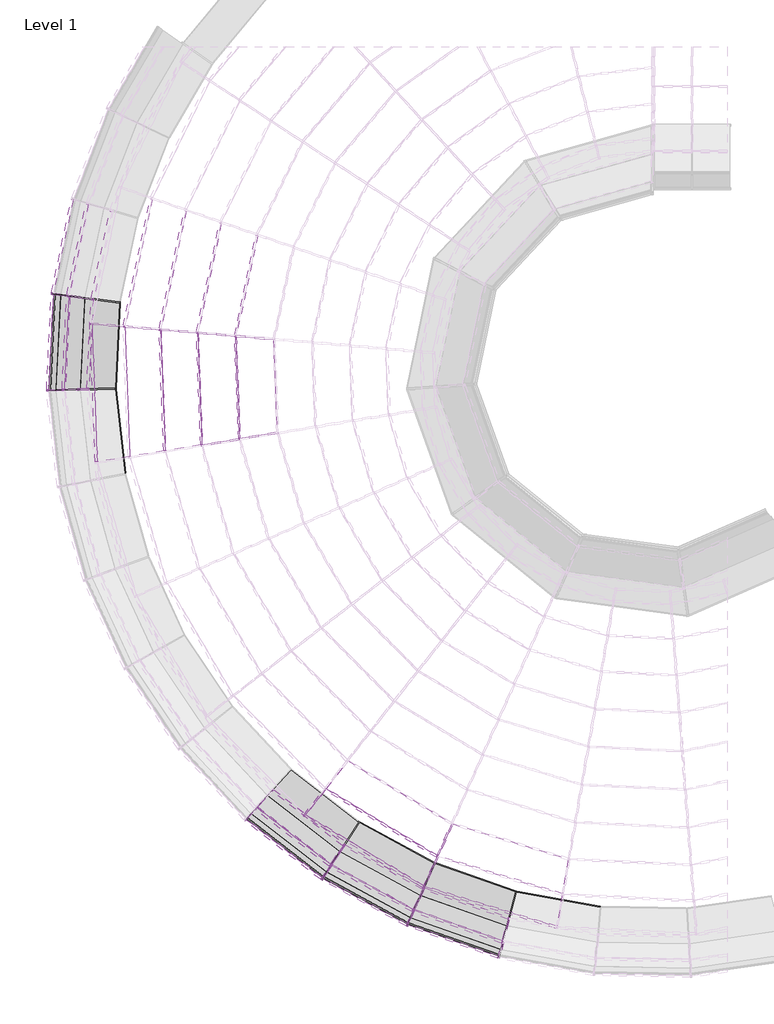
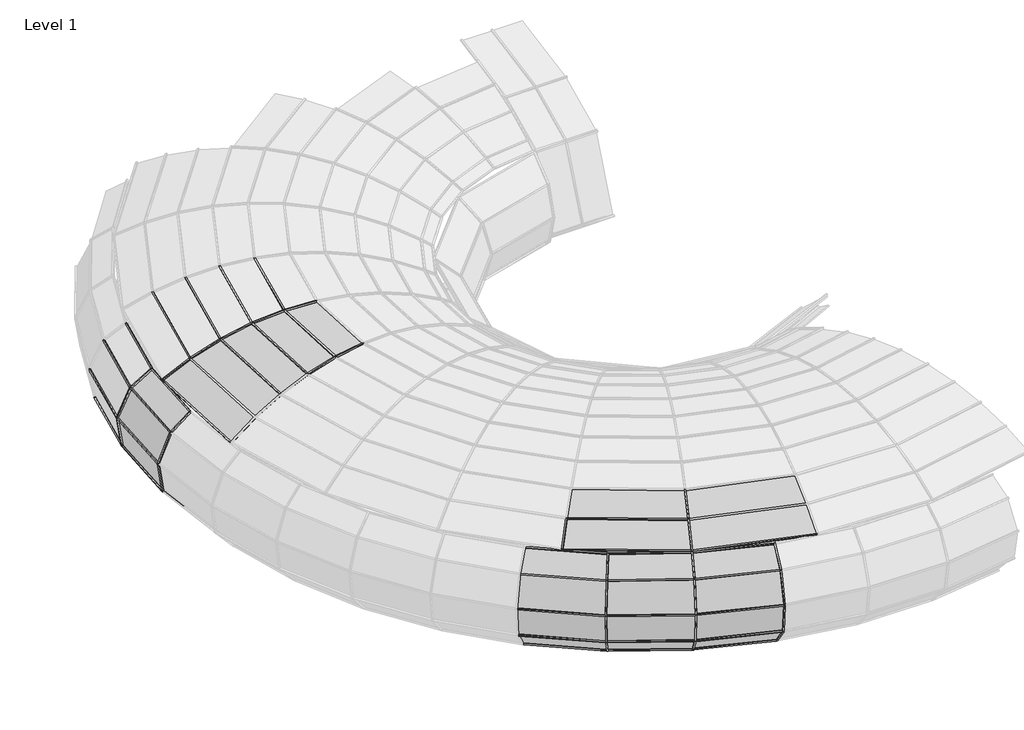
# One storey, part 2 of 23: 76 members, 29 plates.
"""IFC4 building model written with IfcOpenShell, lengths in millimetres."""

from ifc_helpers import new_model, si_unit, origin, place, context, project, spatial, transform, mapped, element, save
from components import member_6c4aaba8, member_0ea93e7c, member_01d9c279, member_12c77cbe, member_af15374c, member_9c203333, member_86c07ba8, member_0e8a41c0, member_f532ae18, member_ff5bcfe9, member_5080b2ef, member_d6b8231b, member_8c9da58c, member_391bee44, member_01ebdf2a, member_0cd36c09, member_e4cc2466, system_panel_glazed_dfe8d515, system_panel_glazed_f0cf6c0b, system_panel_glazed_2b57bb89, system_panel_glazed_39caee5c, system_panel_glazed_2fe36e08, system_panel_glazed_8ac96967, system_panel_glazed_5e26bc8e, system_panel_glazed_f7be4813, system_panel_glazed_5b1ce257, system_panel_glazed_7bf4cd1b

model = new_model("IFC4")

# Units and contexts
model_context = context("Model", 3, world=origin())
ifc_project = project(units=[si_unit("LENGTHUNIT", "METRE", prefix="MILLI")], contexts=[model_context])

# Site, building, storey
site = spatial("IfcSite", under=ifc_project)
building = spatial("IfcBuilding", under=site)
storey = spatial("IfcBuildingStorey", under=building, Name="Level 1", Elevation=0.0)

# Members
placement = place(None, origin())
member_shape = member_6c4aaba8(model_context)
element("IfcMember", 1, ObjectType="Rectangular Mullion : 1\" Square", at=placement, inside=storey, context=model_context, shape_type="MappedRepresentation", body=[
    mapped(member_shape, transform((-18234.6374664, -620.2137756, 2378.3537392), x_axis=(0.8858068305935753, -0.18815306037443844, 0.42419887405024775), y_axis=(-0.41494158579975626, 0.08813719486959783, 0.9055690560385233), z_axis=(-0.20777328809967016, -0.9781770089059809, 0.0))),
])
element("IfcMember", 2, ObjectType="Rectangular Mullion : 1\" Square", at=placement, inside=storey, context=model_context, shape_type="MappedRepresentation", body=[
    mapped(member_shape, transform((-13319.8966208, -8973.2732084, 2378.3537392), x_axis=(0.4674240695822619, 0.7756094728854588, 0.42419887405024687), y_axis=(-0.21895708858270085, -0.363321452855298, 0.9055690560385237), z_axis=(0.8564884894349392, -0.516166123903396, 0.0))),
])
member_2_shape = member_0ea93e7c(model_context)
element("IfcMember", 3, ObjectType="Rectangular Mullion : 1\" Square", at=placement, inside=storey, context=model_context, shape_type="MappedRepresentation", body=[
    mapped(member_2_shape, transform((-17084.3361766, -718.8343784, 2763.3769688), x_axis=(0.9585255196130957, -0.20359914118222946, 0.19943976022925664), y_axis=(-0.19508738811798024, 0.041438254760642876, 0.9799100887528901), z_axis=(-0.2077732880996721, -0.9781770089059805, 0.0))),
])
element("IfcMember", 4, ObjectType="Rectangular Mullion : 1\" Square", at=placement, inside=storey, context=model_context, shape_type="MappedRepresentation", body=[
    mapped(member_2_shape, transform((-17019.4789616, -2495.128698, 2763.3769688), x_axis=(0.979193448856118, 0.03746961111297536, 0.19943976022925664), y_axis=(-0.1992939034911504, -0.007626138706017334, 0.97991008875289), z_axis=(0.038237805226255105, -0.9992686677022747, 0.0))),
])
member_3_shape = member_01d9c279(model_context)
element("IfcMember", 5, ObjectType="Rectangular Mullion : 1\" Square", at=placement, inside=storey, context=model_context, shape_type="MappedRepresentation", body=[
    mapped(member_3_shape, transform((-16483.1530505, -770.3765638, 2850.17796), x_axis=(0.9748671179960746, -0.20707023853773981, 0.08219500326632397), y_axis=(-0.0804012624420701, 0.01707792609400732, 0.9966162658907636), z_axis=(-0.20777328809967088, -0.9781770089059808, 0.0))),
])
element("IfcMember", 6, ObjectType="Rectangular Mullion : 1\" Square", at=placement, inside=storey, context=model_context, shape_type="MappedRepresentation", body=[
    mapped(member_3_shape, transform((-16423.9926884, -2397.7950125, 2850.17796), x_axis=(0.9958874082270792, 0.038108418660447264, 0.08219500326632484), y_axis=(-0.08213489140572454, -0.003142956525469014, 0.9966162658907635), z_axis=(0.038237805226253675, -0.9992686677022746, 0.0))),
])
member_4_shape = member_12c77cbe(model_context)
element("IfcMember", 7, ObjectType="Rectangular Mullion : 1\" Square", at=placement, inside=storey, context=model_context, shape_type="MappedRepresentation", body=[
    mapped(member_4_shape, transform((-17600.5301102, -2590.1029272, 2605.3528615), x_axis=(0.9487397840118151, 0.036304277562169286, 0.3139662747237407), y_axis=(-0.3137366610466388, -0.012005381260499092, 0.9494341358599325), z_axis=(0.03823780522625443, -0.9992686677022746, 0.0))),
])
element("IfcMember", 8, ObjectType="Rectangular Mullion : 1\" Square", at=placement, inside=storey, context=model_context, shape_type="MappedRepresentation", body=[
    mapped(member_4_shape, transform((-17670.9460812, -668.5416221, 2605.3528615), x_axis=(0.9287146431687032, -0.19726705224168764, 0.3139662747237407), y_axis=(-0.3071145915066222, 0.06523380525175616, 0.9494341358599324), z_axis=(-0.20777328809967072, -0.9781770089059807, 0.0))),
])
member_5_shape = member_af15374c(model_context)
element("IfcMember", 9, ObjectType="Rectangular Mullion : 1\" Square", at=placement, inside=storey, context=model_context, shape_type="MappedRepresentation", body=[
    mapped(member_5_shape, transform((-18769.5441808, -599.6519261, 2085.6089632), x_axis=(-0.874944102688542, -0.03348042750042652, -0.48306508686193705), y_axis=(-0.4827118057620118, -0.018471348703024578, 0.8755844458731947), z_axis=(-0.038237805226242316, 0.9992686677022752, 0.0))),
])
element("IfcMember", 10, ObjectType="Rectangular Mullion : 1\" Square", at=placement, inside=storey, context=model_context, shape_type="MappedRepresentation", body=[
    mapped(member_5_shape, transform((-15395.4434712, -8341.9634909, 2085.6089632), x_axis=(-0.4519470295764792, -0.7499279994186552, -0.4830650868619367), y_axis=(-0.24934183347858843, -0.4137396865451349, 0.8755844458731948), z_axis=(-0.8564884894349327, 0.5161661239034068, 0.0))),
])
element("IfcMember", 11, ObjectType="Rectangular Mullion : 1\" Square", at=placement, inside=storey, context=model_context, shape_type="MappedRepresentation", body=[
    mapped(member_5_shape, transform((-13514.2142778, -9472.0603684, 2085.6089632), x_axis=(-0.2544193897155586, -0.8378060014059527, -0.4830650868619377), y_axis=(-0.1403646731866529, -0.4622224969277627, 0.8755844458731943), z_axis=(-0.9568534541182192, 0.2905709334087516, 0.0))),
])
member_6_shape = member_9c203333(model_context)
element("IfcMember", 12, ObjectType="Rectangular Mullion : 1\" Square", at=placement, inside=storey, context=model_context, shape_type="MappedRepresentation", body=[
    mapped(member_6_shape, transform((-18301.5304624, -271.2213628, 0.0), x_axis=(0.9585248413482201, -0.0468730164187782, -0.28112817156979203), y_axis=(-0.28079263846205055, 0.013731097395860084, -0.9596702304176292), z_axis=(0.04884283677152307, 0.9988064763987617, 0.0))),
])
element("IfcMember", 13, ObjectType="Rectangular Mullion : 1\" Square", at=placement, inside=storey, context=model_context, shape_type="MappedRepresentation", body=[
    mapped(member_6_shape, transform((-18365.6119929, -1623.1277154, 0.0), x_axis=(0.9537279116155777, 0.10663030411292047, -0.281128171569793), y_axis=(-0.27938741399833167, -0.031236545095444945, -0.959670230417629), z_axis=(-0.11111140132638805, 0.9938079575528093, 0.0))),
])
element("IfcMember", 14, ObjectType="Rectangular Mullion : 1\" Square", at=placement, inside=storey, context=model_context, shape_type="MappedRepresentation", body=[
    mapped(member_6_shape, transform((-14525.3059451, -8435.0631965, 0.0), x_axis=(0.45860198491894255, 0.8430012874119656, -0.28112817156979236), y_axis=(-0.13434400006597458, -0.24695088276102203, -0.9596702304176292), z_axis=(-0.8784280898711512, 0.4778745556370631, 0.0))),
])
element("IfcMember", 15, ObjectType="Rectangular Mullion : 1\" Square", at=placement, inside=storey, context=model_context, shape_type="MappedRepresentation", body=[
    mapped(member_6_shape, transform((-13335.4532661, -9080.0498871, 0.0), x_axis=(0.31825462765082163, 0.9053623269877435, -0.2811281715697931), y_axis=(-0.09323029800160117, -0.2652190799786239, -0.959670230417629), z_axis=(-0.9434098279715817, 0.33162915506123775, 0.0))),
])
element("IfcMember", 16, ObjectType="Rectangular Mullion : 1\" Square", at=placement, inside=storey, context=model_context, shape_type="MappedRepresentation", body=[
    mapped(member_6_shape, transform((-12057.9491024, -9526.9730801, 0.0), x_axis=(0.1697566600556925, 0.9445367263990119, -0.2811281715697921), y_axis=(-0.04972893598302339, -0.2766949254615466, -0.9596702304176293), z_axis=(-0.9842305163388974, 0.17689061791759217, 0.0))),
])
member_7_shape = member_86c07ba8(model_context)
element("IfcMember", 17, ObjectType="Rectangular Mullion : 1\" Square", at=placement, inside=storey, context=model_context, shape_type="MappedRepresentation", body=[
    mapped(member_7_shape, transform((-18878.5779672, -170.8570646, 170.8694653), x_axis=(-0.8256616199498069, 0.1751773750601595, 0.536279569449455), y_axis=(-0.524602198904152, 0.11130278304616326, -0.8440404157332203), z_axis=(-0.2075461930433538, -0.9782252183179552, 0.0))),
])
element("IfcMember", 18, ObjectType="Rectangular Mullion : 1\" Square", at=placement, inside=storey, context=model_context, shape_type="MappedRepresentation", body=[
    mapped(member_7_shape, transform((-18951.2803365, -1616.0987482, 170.8694653), x_axis=(-0.8430330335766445, 0.04122532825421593, 0.5362795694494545), y_axis=(-0.5356395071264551, 0.02619341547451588, -0.8440404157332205), z_axis=(-0.04884283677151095, -0.9988064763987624, 0.0))),
])
element("IfcMember", 19, ObjectType="Rectangular Mullion : 1\" Square", at=placement, inside=storey, context=model_context, shape_type="MappedRepresentation", body=[
    mapped(member_7_shape, transform((-14866.3751386, -8911.223485, 170.8694653), x_axis=(-0.5164526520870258, -0.6675933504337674, 0.5362795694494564), y_axis=(-0.32813950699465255, -0.42417006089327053, -0.8440404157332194), z_axis=(0.7909495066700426, -0.611881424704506, 0.0))),
])
element("IfcMember", 20, ObjectType="Rectangular Mullion : 1\" Square", at=placement, inside=storey, context=model_context, shape_type="MappedRepresentation", body=[
    mapped(member_7_shape, transform((-13596.1983079, -9604.5199418, 170.8694653), x_axis=(-0.4033454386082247, -0.7414288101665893, 0.5362795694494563), y_axis=(-0.2562743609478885, -0.4710830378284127, -0.8440404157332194), z_axis=(0.8784280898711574, -0.4778745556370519, 0.0))),
])
element("IfcMember", 21, ObjectType="Rectangular Mullion : 1\" Square", at=placement, inside=storey, context=model_context, shape_type="MappedRepresentation", body=[
    mapped(member_7_shape, transform((-12231.6922224, -10086.3210429, 170.8694653), x_axis=(-0.2799084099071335, -0.7962760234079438, 0.5362795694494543), y_axis=(-0.17784594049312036, -0.505931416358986, -0.8440404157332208), z_axis=(0.9434098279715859, -0.3316291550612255, 0.0))),
])
member_8_shape = member_0e8a41c0(model_context)
element("IfcMember", 22, ObjectType="Rectangular Mullion : 1\" Square", at=placement, inside=storey, context=model_context, shape_type="MappedRepresentation", body=[
    mapped(member_8_shape, transform((-19276.5112364, -119.2515567, 629.7792003), x_axis=(-0.41308319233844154, 0.08764223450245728, 0.9064662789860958), y_axis=(-0.8867281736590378, 0.18813362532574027, -0.4222782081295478), z_axis=(-0.2075461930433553, -0.9782252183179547, 0.0))),
])
element("IfcMember", 23, ObjectType="Rectangular Mullion : 1\" Square", at=placement, inside=storey, context=model_context, shape_type="MappedRepresentation", body=[
    mapped(member_8_shape, transform((-19352.3500705, -1628.6320493, 629.7792003), x_axis=(-0.42177420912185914, 0.020625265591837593, 0.9064662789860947), y_axis=(-0.9053843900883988, 0.04427438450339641, -0.42227820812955), z_axis=(-0.0488428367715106, -0.9988064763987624, 0.0))),
])
element("IfcMember", 24, ObjectType="Rectangular Mullion : 1\" Square", at=placement, inside=storey, context=model_context, shape_type="MappedRepresentation", body=[
    mapped(member_8_shape, transform((-15085.7191992, -9247.2327084, 629.7792003), x_axis=(-0.25838419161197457, -0.3340007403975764, 0.9064662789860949), y_axis=(-0.5546498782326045, -0.7169690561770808, -0.42227820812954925), z_axis=(0.7909495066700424, -0.6118814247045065, 0.0))),
])
element("IfcMember", 25, ObjectType="Rectangular Mullion : 1\" Square", at=placement, inside=storey, context=model_context, shape_type="MappedRepresentation", body=[
    mapped(member_8_shape, transform((-13759.133712, -9971.2160957, 629.7792003), x_axis=(-0.2017960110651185, -0.3709410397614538, 0.9064662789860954), y_axis=(-0.4331771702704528, -0.7962654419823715, -0.4222782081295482), z_axis=(0.8784280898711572, -0.4778745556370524, 0.0))),
])
element("IfcMember", 26, ObjectType="Rectangular Mullion : 1\" Square", at=placement, inside=storey, context=model_context, shape_type="MappedRepresentation", body=[
    mapped(member_8_shape, transform((-12334.0461382, -10474.3129127, 629.7792003), x_axis=(-0.1400397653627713, -0.39838141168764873, 0.9064662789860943), y_axis=(-0.300610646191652, -0.8551691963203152, -0.4222782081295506), z_axis=(0.943409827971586, -0.3316291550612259, 0.0))),
])
member_9_shape = member_f532ae18(model_context)
element("IfcMember", 27, ObjectType="Rectangular Mullion : 1\" Square", at=placement, inside=storey, context=model_context, shape_type="MappedRepresentation", body=[
    mapped(member_9_shape, transform((-19367.0167724, -107.5144527, 1232.5089476), x_axis=(0.13104349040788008, -0.027802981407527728, 0.9909866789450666), y_axis=(-0.9694081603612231, 0.20567551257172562, 0.13396044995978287), z_axis=(-0.20754619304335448, -0.978225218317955, 0.0))),
])
element("IfcMember", 28, ObjectType="Rectangular Mullion : 1\" Square", at=placement, inside=storey, context=model_context, shape_type="MappedRepresentation", body=[
    mapped(member_9_shape, transform((-19443.5689609, -1631.4826104, 1232.5089476), x_axis=(0.13380056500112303, -0.006543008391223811, 0.9909866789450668), y_axis=(-0.9898039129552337, 0.04840260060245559, 0.13396044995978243), z_axis=(-0.04884283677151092, -0.9988064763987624, 0.0))),
])
element("IfcMember", 29, ObjectType="Rectangular Mullion : 1\" Square", at=placement, inside=storey, context=model_context, shape_type="MappedRepresentation", body=[
    mapped(member_9_shape, transform((-15135.6065882, -9323.6543028, 1232.5089476), x_axis=(0.08196791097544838, 0.10595595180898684, 0.9909866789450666), y_axis=(-0.6063663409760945, -0.7838204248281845, 0.13396044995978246), z_axis=(0.7909495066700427, -0.6118814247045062, 0.0))),
])
element("IfcMember", 30, ObjectType="Rectangular Mullion : 1\" Square", at=placement, inside=storey, context=model_context, shape_type="MappedRepresentation", body=[
    mapped(member_9_shape, transform((-13796.1915737, -10054.6170941, 1232.5089476), x_axis=(0.06401629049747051, 0.11767462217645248, 0.9909866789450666), y_axis=(-0.47356731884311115, -0.870510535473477, 0.13396044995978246), z_axis=(0.8784280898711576, -0.4778745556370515, 0.0))),
])
element("IfcMember", 31, ObjectType="Rectangular Mullion : 1\" Square", at=placement, inside=storey, context=model_context, shape_type="MappedRepresentation", body=[
    mapped(member_9_shape, transform((-12357.3254083, -10562.5573871, 1232.5089476), x_axis=(0.04442519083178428, 0.1263796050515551, 0.9909866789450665), y_axis=(-0.32864007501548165, -0.934906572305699, 0.13396044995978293), z_axis=(0.9434098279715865, -0.33162915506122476, 0.0))),
])
member_10_shape = member_ff5bcfe9(model_context)
element("IfcMember", 32, ObjectType="Rectangular Mullion : 1\" Square", at=placement, inside=storey, context=model_context, shape_type="MappedRepresentation", body=[
    mapped(member_10_shape, transform((-19121.651658, -139.334339, 1789.6405438), x_axis=(0.6333020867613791, -0.1343652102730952, 0.7621512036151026), y_axis=(-0.7455555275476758, 0.1581815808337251, 0.6473990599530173), z_axis=(-0.20754619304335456, -0.978225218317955, 0.0))),
])
element("IfcMember", 33, ObjectType="Rectangular Mullion : 1\" Square", at=placement, inside=storey, context=model_context, shape_type="MappedRepresentation", body=[
    mapped(member_10_shape, transform((-19196.2699065, -1623.754594, 1789.6405438), x_axis=(0.6466263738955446, -0.03162080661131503, 0.7621512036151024), y_axis=(-0.7612415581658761, 0.03722562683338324, 0.6473990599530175), z_axis=(-0.0488428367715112, -0.9988064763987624, 0.0))),
])
element("IfcMember", 34, ObjectType="Rectangular Mullion : 1\" Square", at=placement, inside=storey, context=model_context, shape_type="MappedRepresentation", body=[
    mapped(member_10_shape, transform((-15000.3593377, -9116.471471, 1789.6405438), x_axis=(0.3961314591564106, 0.5120599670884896, 0.7621512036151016), y_axis=(-0.46634616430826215, -0.602823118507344, 0.6473990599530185), z_axis=(0.7909495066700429, -0.6118814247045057, 0.0))),
])
element("IfcMember", 35, ObjectType="Rectangular Mullion : 1\" Square", at=placement, inside=storey, context=model_context, shape_type="MappedRepresentation", body=[
    mapped(member_10_shape, transform((-13695.7258244, -9828.5127426, 1789.6405438), x_axis=(0.30937553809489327, 0.5686935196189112, 0.7621512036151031), y_axis=(-0.36421266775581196, -0.6694950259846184, 0.6473990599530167), z_axis=(0.8784280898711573, -0.47787455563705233, 0.0))),
])
element("IfcMember", 36, ObjectType="Rectangular Mullion : 1\" Square", at=placement, inside=storey, context=model_context, shape_type="MappedRepresentation", body=[
    mapped(member_10_shape, transform((-12294.2141225, -10323.322126, 1789.6405438), x_axis=(0.21469640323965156, 0.610762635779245, 0.7621512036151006), y_axis=(-0.2527515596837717, -0.7190209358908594, 0.6473990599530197), z_axis=(0.9434098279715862, -0.3316291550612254, 0.0))),
])
member_11_shape = member_5080b2ef(model_context)
element("IfcMember", 37, ObjectType="Rectangular Mullion : 1\" Square", at=placement, inside=storey, context=model_context, shape_type="MappedRepresentation", body=[
    mapped(member_11_shape, transform((-18726.0639055, -190.6356713, 2085.6089632), x_axis=(0.784704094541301, -0.1664875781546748, 0.5970941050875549), y_axis=(-0.5840925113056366, 0.12392460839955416, 0.8021711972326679), z_axis=(-0.2075461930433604, -0.9782252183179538, 0.0))),
])
element("IfcMember", 38, ObjectType="Rectangular Mullion : 1\" Square", at=placement, inside=storey, context=model_context, shape_type="MappedRepresentation", body=[
    mapped(member_11_shape, transform((-18797.5641763, -1611.2951673, 2085.6089632), x_axis=(0.8012137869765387, -0.03918031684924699, 0.5970941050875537), y_axis=(-0.5963814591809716, 0.029163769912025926, 0.8021711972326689), z_axis=(-0.04884283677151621, -0.9988064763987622, 0.0))),
])
element("IfcMember", 39, ObjectType="Rectangular Mullion : 1\" Square", at=placement, inside=storey, context=model_context, shape_type="MappedRepresentation", body=[
    mapped(member_11_shape, transform((-14782.308145, -8782.4427687, 2085.6089632), x_axis=(0.49083365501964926, 0.6344769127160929, 0.5970941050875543), y_axis=(-0.3653507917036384, -0.47227128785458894, 0.8021711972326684), z_axis=(0.790949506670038, -0.611881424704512, 0.0))),
])
element("IfcMember", 40, ObjectType="Rectangular Mullion : 1\" Square", at=placement, inside=storey, context=model_context, shape_type="MappedRepresentation", body=[
    mapped(member_11_shape, transform((-13533.7508017, -9463.9779862, 2085.6089632), x_axis=(0.3833372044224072, 0.7046497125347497, 0.5970941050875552), y_axis=(-0.28533608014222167, -0.5245042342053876, 0.8021711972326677), z_axis=(0.8784280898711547, -0.47787455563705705, 0.0))),
])
element("IfcMember", 41, ObjectType="Rectangular Mullion : 1\" Square", at=placement, inside=storey, context=model_context, shape_type="MappedRepresentation", body=[
    mapped(member_11_shape, transform((-12192.4635058, -9937.6171757, 2085.6089632), x_axis=(0.2660233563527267, 0.7567761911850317, 0.5970941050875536), y_axis=(-0.19801381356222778, -0.5633044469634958, 0.802171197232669), z_axis=(0.943409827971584, -0.33162915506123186, 0.0))),
])
member_12_shape = member_d6b8231b(model_context)
element("IfcMember", 42, ObjectType="Rectangular Mullion : 1\" Square", at=placement, inside=storey, context=model_context, shape_type="MappedRepresentation", body=[
    mapped(member_12_shape, transform((-12070.44883, -9524.7265693, 0.0), x_axis=(0.9669205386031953, -0.2550777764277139, 0.0), y_axis=(-0.07149770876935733, -0.27102558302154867, -0.9599131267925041), z_axis=(0.2448525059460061, 0.9281597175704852, -0.28029767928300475))),
])
element("IfcMember", 43, ObjectType="Rectangular Mullion : 1\" Square", at=placement, inside=storey, context=model_context, shape_type="MappedRepresentation", body=[
    mapped(member_12_shape, transform((-13347.4345709, -9075.8381968, 0.0), x_axis=(0.913849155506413, -0.4060538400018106, 0.0), y_axis=(-0.11381594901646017, -0.25614979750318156, -0.959913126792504), z_axis=(0.38977641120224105, 0.8772158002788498, -0.2802976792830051))),
])
element("IfcMember", 44, ObjectType="Rectangular Mullion : 1\" Square", at=placement, inside=storey, context=model_context, shape_type="MappedRepresentation", body=[
    mapped(member_12_shape, transform((-14536.4619818, -8428.9941896, 0.0), x_axis=(0.8373737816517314, -0.5466307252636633, 0.0), y_axis=(-0.15321932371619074, -0.23471392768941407, -0.959913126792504), z_axis=(0.5247180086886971, 0.8038060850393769, -0.28029767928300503))),
])
element("IfcMember", 45, ObjectType="Rectangular Mullion : 1\" Square", at=placement, inside=storey, context=model_context, shape_type="MappedRepresentation", body=[
    mapped(member_12_shape, transform((-18367.0231077, -1610.5063544, 0.0), x_axis=(0.031234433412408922, -0.9995120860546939, 0.0), y_axis=(-0.2801609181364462, -0.008754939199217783, -0.9599131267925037), z_axis=(0.9594447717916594, 0.029982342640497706, -0.2802976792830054))),
])
element("IfcMember", 46, ObjectType="Rectangular Mullion : 1\" Square", at=placement, inside=storey, context=model_context, shape_type="MappedRepresentation", body=[
    mapped(member_12_shape, transform((-18300.9101584, -258.5365206, 0.0), x_axis=(-0.1286068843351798, -0.9916956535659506, 0.0), y_axis=(-0.2779699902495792, 0.0360482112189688, -0.9599131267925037), z_axis=(0.9519416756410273, -0.12345143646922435, -0.2802976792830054))),
])
member_13_shape = member_8c9da58c(model_context)
element("IfcMember", 47, ObjectType="Rectangular Mullion : 1\" Square", at=placement, inside=storey, context=model_context, shape_type="MappedRepresentation", body=[
    mapped(member_13_shape, transform((-18881.2138039, -183.2805249, 170.8694653), x_axis=(-0.12860688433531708, -0.9916956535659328, 0.0), y_axis=(-0.7465531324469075, 0.09681586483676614, -0.6582439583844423), z_axis=(0.6527776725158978, -0.08465470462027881, -0.7528046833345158))),
])
element("IfcMember", 48, ObjectType="Rectangular Mullion : 1\" Square", at=placement, inside=storey, context=model_context, shape_type="MappedRepresentation", body=[
    mapped(member_13_shape, transform((-19279.147073, -131.675017, 629.7792003), x_axis=(-0.12860688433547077, -0.9916956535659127, 0.0), y_axis=(-0.9805191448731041, 0.12715747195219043, -0.1497103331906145), z_axis=(0.14846708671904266, -0.019253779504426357, -0.988729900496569))),
])
element("IfcMember", 49, ObjectType="Rectangular Mullion : 1\" Square", at=placement, inside=storey, context=model_context, shape_type="MappedRepresentation", body=[
    mapped(member_13_shape, transform((-18951.9006405, -1628.7835904, 170.8694653), x_axis=(0.031234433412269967, -0.9995120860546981, 0.0), y_axis=(-0.7524373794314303, -0.023513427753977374, -0.658243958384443), z_axis=(0.6579227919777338, 0.020559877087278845, -0.7528046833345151))),
])
element("IfcMember", 50, ObjectType="Rectangular Mullion : 1\" Square", at=placement, inside=storey, context=model_context, shape_type="MappedRepresentation", body=[
    mapped(member_13_shape, transform((-14856.3300799, -8918.9943791, 170.8694653), x_axis=(0.8373737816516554, -0.5466307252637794, 0.0), y_axis=(-0.4115061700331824, -0.6303789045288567, -0.6582439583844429), z_axis=(0.3598163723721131, 0.5511962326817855, -0.7528046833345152))),
])
element("IfcMember", 51, ObjectType="Rectangular Mullion : 1\" Square", at=placement, inside=storey, context=model_context, shape_type="MappedRepresentation", body=[
    mapped(member_13_shape, transform((-13585.0422712, -9610.5889486, 170.8694653), x_axis=(0.9138491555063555, -0.40605384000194, 0.0), y_axis=(-0.3056792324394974, -0.6879499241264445, -0.658243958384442), z_axis=(0.2672824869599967, 0.6015356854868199, -0.7528046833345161))),
])
element("IfcMember", 52, ObjectType="Rectangular Mullion : 1\" Square", at=placement, inside=storey, context=model_context, shape_type="MappedRepresentation", body=[
    mapped(member_13_shape, transform((-12219.7109176, -10090.5327331, 170.8694653), x_axis=(0.9669205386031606, -0.2550777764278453, 0.0), y_axis=(-0.1920237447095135, -0.7279023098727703, -0.6582439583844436), z_axis=(0.1679034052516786, 0.6364696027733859, -0.7528046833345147))),
])
member_14_shape = member_391bee44(model_context)
element("IfcMember", 53, ObjectType="Rectangular Mullion : 1\" Square", at=placement, inside=storey, context=model_context, shape_type="MappedRepresentation", body=[
    mapped(member_14_shape, transform((-19369.6526091, -119.937913, 1232.5089476), x_axis=(-0.12860688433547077, -0.9916956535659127, 0.0), y_axis=(-0.9063401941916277, 0.11753766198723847, 0.4058723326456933), z_axis=(-0.4025018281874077, 0.05219797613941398, -0.9139297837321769))),
])
member_15_shape = member_01ebdf2a(model_context)
element("IfcMember", 54, ObjectType="Rectangular Mullion : 1\" Square", at=placement, inside=storey, context=model_context, shape_type="MappedRepresentation", body=[
    mapped(member_15_shape, transform((-19124.2874946, -151.7577992, 1789.6405438), x_axis=(-0.1286068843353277, -0.9916956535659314, 0.0), y_axis=(-0.5909117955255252, 0.07663170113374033, 0.8030883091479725), z_axis=(-0.7964191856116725, 0.10328268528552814, -0.5958600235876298))),
])
element("IfcMember", 55, ObjectType="Rectangular Mullion : 1\" Square", at=placement, inside=storey, context=model_context, shape_type="MappedRepresentation", body=[
    mapped(member_13_shape, transform((-19352.9703745, -1641.3168915, 629.7792003), x_axis=(0.031234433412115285, -0.9995120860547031, 0.0), y_axis=(-0.9882474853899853, -0.030882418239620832, -0.14971033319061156), z_axis=(0.14963728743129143, 0.0046761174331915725, -0.9887299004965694))),
])
element("IfcMember", 56, ObjectType="Rectangular Mullion : 1\" Square", at=placement, inside=storey, context=model_context, shape_type="MappedRepresentation", body=[
    mapped(member_13_shape, transform((-15075.6741405, -9255.0036025, 629.7792003), x_axis=(0.8373737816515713, -0.5466307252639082, 0.0), y_axis=(-0.5404701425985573, -0.8279364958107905, -0.1497103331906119), z_axis=(0.08183626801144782, 0.12536350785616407, -0.9887299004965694))),
])
element("IfcMember", 57, ObjectType="Rectangular Mullion : 1\" Square", at=placement, inside=storey, context=model_context, shape_type="MappedRepresentation", body=[
    mapped(member_13_shape, transform((-13747.9776752, -9977.2851025, 629.7792003), x_axis=(0.9138491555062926, -0.4060538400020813, 0.0), y_axis=(-0.40147757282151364, -0.9035499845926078, -0.14971033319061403), z_axis=(0.060790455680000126, 0.13681266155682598, -0.9887299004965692))),
])
element("IfcMember", 58, ObjectType="Rectangular Mullion : 1\" Square", at=placement, inside=storey, context=model_context, shape_type="MappedRepresentation", body=[
    mapped(member_13_shape, transform((-12322.0648334, -10478.524603, 629.7792003), x_axis=(0.9669205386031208, -0.25507777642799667, 0.0), y_axis=(-0.25220302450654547, -0.956023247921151, -0.14971033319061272), z_axis=(0.038187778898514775, 0.1447579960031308, -0.9887299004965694))),
])
element("IfcMember", 59, ObjectType="Rectangular Mullion : 1\" Square", at=placement, inside=storey, context=model_context, shape_type="MappedRepresentation", body=[
    mapped(member_14_shape, transform((-19444.189265, -1644.1674527, 1232.5089476), x_axis=(0.031234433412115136, -0.999512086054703, 0.0), y_axis=(-0.9134838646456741, -0.028546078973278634, 0.40587233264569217), z_axis=(-0.4056743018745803, -0.012677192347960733, -0.9139297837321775))),
])
element("IfcMember", 60, ObjectType="Rectangular Mullion : 1\" Square", at=placement, inside=storey, context=model_context, shape_type="MappedRepresentation", body=[
    mapped(member_14_shape, transform((-15125.5615295, -9331.4251969, 1232.5089476), x_axis=(0.8373737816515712, -0.5466307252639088, 0.0), y_axis=(-0.4995821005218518, -0.7653008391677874, 0.40587233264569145), z_axis=(-0.22186228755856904, -0.3398668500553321, -0.9139297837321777))),
])
element("IfcMember", 61, ObjectType="Rectangular Mullion : 1\" Square", at=placement, inside=storey, context=model_context, shape_type="MappedRepresentation", body=[
    mapped(member_14_shape, transform((-13785.035537, -10060.686101, 1232.5089476), x_axis=(0.9138491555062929, -0.406053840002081, 0.0), y_axis=(-0.3711046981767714, -0.8351939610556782, 0.40587233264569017), z_axis=(-0.16480601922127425, -0.370906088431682, -0.9139297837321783))),
])
element("IfcMember", 62, ObjectType="Rectangular Mullion : 1\" Square", at=placement, inside=storey, context=model_context, shape_type="MappedRepresentation", body=[
    mapped(member_14_shape, transform((-12345.3441035, -10566.7690773, 1232.5089476), x_axis=(0.9669205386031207, -0.255077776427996, 0.0), y_axis=(-0.23312317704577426, -0.8836974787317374, 0.4058723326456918), z_axis=(-0.10352901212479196, -0.3924462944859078, -0.9139297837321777))),
])
element("IfcMember", 63, ObjectType="Rectangular Mullion : 1\" Square", at=placement, inside=storey, context=model_context, shape_type="MappedRepresentation", body=[
    mapped(member_15_shape, transform((-19196.8902105, -1636.4394362, 1789.6405438), x_axis=(0.031234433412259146, -0.9995120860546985, 0.0), y_axis=(-0.5955692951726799, -0.018611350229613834, 0.8030883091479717), z_axis=(-0.802696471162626, -0.0250840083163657, -0.5958600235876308))),
])
element("IfcMember", 64, ObjectType="Rectangular Mullion : 1\" Square", at=placement, inside=storey, context=model_context, shape_type="MappedRepresentation", body=[
    mapped(member_15_shape, transform((-14990.314279, -9124.2423651, 1789.6405438), x_axis=(0.8373737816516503, -0.5466307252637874, 0.0), y_axis=(-0.3257153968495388, -0.4989575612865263, 0.8030883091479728), z_axis=(-0.4389927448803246, -0.6724850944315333, -0.5958600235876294))),
])
element("IfcMember", 65, ObjectType="Rectangular Mullion : 1\" Square", at=placement, inside=storey, context=model_context, shape_type="MappedRepresentation", body=[
    mapped(member_15_shape, transform((-13684.5697877, -9834.5817495, 1789.6405438), x_axis=(0.9138491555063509, -0.40605384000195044, 0.0), y_axis=(-0.24195125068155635, -0.5445261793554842, 0.8030883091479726), z_axis=(-0.3260970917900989, -0.7339015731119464, -0.5958600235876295))),
])
element("IfcMember", 66, ObjectType="Rectangular Mullion : 1\" Square", at=placement, inside=storey, context=model_context, shape_type="MappedRepresentation", body=[
    mapped(member_15_shape, transform((-12282.2328177, -10327.5338162, 1789.6405438), x_axis=(0.9669205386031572, -0.25507777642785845, 0.0), y_axis=(-0.15199064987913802, -0.5761492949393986, 0.8030883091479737), z_axis=(-0.204849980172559, -0.7765225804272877, -0.5958600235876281))),
])
member_16_shape = member_0cd36c09(model_context)
element("IfcMember", 67, ObjectType="Rectangular Mullion : 1\" Square", at=placement, inside=storey, context=model_context, shape_type="MappedRepresentation", body=[
    mapped(member_16_shape, transform((-18237.2761871, -632.6366236, 2378.3537392), x_axis=(-0.08542121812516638, -0.9963449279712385, 0.0), y_axis=(-0.37101283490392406, 0.03180863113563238, 0.9280828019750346), z_axis=(-0.9246905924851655, 0.0792779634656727, -0.37237388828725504))),
])
element("IfcMember", 68, ObjectType="Rectangular Mullion : 1\" Square", at=placement, inside=storey, context=model_context, shape_type="MappedRepresentation", body=[
    mapped(member_16_shape, transform((-17673.584802, -680.9644702, 2605.3528615), x_axis=(-0.08542121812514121, -0.9963449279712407, 0.0), y_axis=(-0.25827840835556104, 0.022143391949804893, 0.965816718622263), z_axis=(-0.9622865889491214, 0.08250124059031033, -0.259225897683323))),
])
element("IfcMember", 69, ObjectType="Rectangular Mullion : 1\" Square", at=placement, inside=storey, context=model_context, shape_type="MappedRepresentation", body=[
    mapped(member_16_shape, transform((-17086.9748973, -731.2572264, 2763.3769688), x_axis=(-0.0854212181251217, -0.9963449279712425, 0.0), y_axis=(-0.14186963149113, 0.01216313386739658, 0.9898106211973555), z_axis=(-0.9861927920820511, 0.08455082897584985, -0.14239007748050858))),
])
element("IfcMember", 70, ObjectType="Rectangular Mullion : 1\" Square", at=placement, inside=storey, context=model_context, shape_type="MappedRepresentation", body=[
    mapped(member_16_shape, transform((-16485.7917713, -782.7994118, 2850.17796), x_axis=(-0.0854212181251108, -0.9963449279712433, 0.0), y_axis=(-0.023442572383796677, 0.0020098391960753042, 0.9997231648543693), z_axis=(-0.9960691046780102, 0.08539757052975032, -0.02352857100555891))),
])
element("IfcMember", 71, ObjectType="Rectangular Mullion : 1\" Square", at=placement, inside=storey, context=model_context, shape_type="MappedRepresentation", body=[
    mapped(member_16_shape, transform((-17018.9933415, -2507.8194101, 2763.3769688), x_axis=(0.16131178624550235, -0.9869034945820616, 0.0), y_axis=(-0.14052526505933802, -0.022969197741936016, 0.9898106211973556), z_axis=(-0.9768475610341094, -0.15966811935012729, -0.14239007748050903))),
])
element("IfcMember", 72, ObjectType="Rectangular Mullion : 1\" Square", at=placement, inside=storey, context=model_context, shape_type="MappedRepresentation", body=[
    mapped(member_16_shape, transform((-13309.019217, -8979.8285181, 2378.3537392), x_axis=(0.9136605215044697, -0.4064781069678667, 0.0), y_axis=(-0.15136183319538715, -0.34022332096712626, 0.9280828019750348), z_axis=(-0.3772453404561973, -0.8479526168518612, -0.37237388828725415))),
])
element("IfcMember", 73, ObjectType="Rectangular Mullion : 1\" Square", at=placement, inside=storey, context=model_context, shape_type="MappedRepresentation", body=[
    mapped(member_16_shape, transform((-16423.5070683, -2410.4857246, 2850.17796), x_axis=(0.16131178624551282, -0.9869034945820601, 0.0), y_axis=(-0.023220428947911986, -0.003795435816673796, 0.9997231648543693), z_axis=(-0.9866302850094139, -0.16126712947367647, -0.023528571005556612))),
])
member_17_shape = member_e4cc2466(model_context)
element("IfcMember", 74, ObjectType="Rectangular Mullion : 1\" Square", at=placement, inside=storey, context=model_context, shape_type="MappedRepresentation", body=[
    mapped(member_17_shape, transform((-18770.029801, -586.9612141, 2085.6089632), x_axis=(-0.0854212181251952, -0.9963449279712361, 0.0), y_axis=(-0.47846911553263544, 0.04102135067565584, 0.8771456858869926), z_axis=(-0.8739396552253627, 0.0749268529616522, -0.4802243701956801))),
])
element("IfcMember", 75, ObjectType="Rectangular Mullion : 1\" Square", at=placement, inside=storey, context=model_context, shape_type="MappedRepresentation", body=[
    mapped(member_17_shape, transform((-13526.3663167, -9468.3701175, 2085.6089632), x_axis=(0.913660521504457, -0.40647810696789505, 0.0), y_axis=(-0.195200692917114, -0.4387620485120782, 0.8771456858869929), z_axis=(-0.3565405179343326, -0.8014133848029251, -0.48022437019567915))),
])
element("IfcMember", 76, ObjectType="Rectangular Mullion : 1\" Square", at=placement, inside=storey, context=model_context, shape_type="MappedRepresentation", body=[
    mapped(member_17_shape, transform((-15406.320875, -8335.4081811, 2085.6089632), x_axis=(0.786212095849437, -0.6179567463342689, 0.0), y_axis=(-0.2967578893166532, -0.3775582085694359, 0.877145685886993), z_axis=(-0.5420380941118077, -0.689622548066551, -0.48022437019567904))),
])

# Plates
system_panel_glazed_shape = system_panel_glazed_dfe8d515(model_context)
element("IfcPlate", 77, ObjectType="System Panel : Glazed", at=placement, inside=storey, context=model_context, shape_type="MappedRepresentation", body=[
    mapped(system_panel_glazed_shape, transform((-18358.313164, -933.3308629, 7.1406556), x_axis=(-0.04884283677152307, -0.9988064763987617, 0.0), y_axis=(0.2807926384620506, -0.013731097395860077, 0.9596702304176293), z_axis=(-0.9585248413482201, 0.0468730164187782, 0.28112817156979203))),
])
element("IfcPlate", 78, ObjectType="System Panel : Glazed", at=placement, inside=storey, context=model_context, shape_type="MappedRepresentation", body=[
    mapped(system_panel_glazed_shape, transform((-15086.6858135, -8034.157205, 7.1406556), x_axis=(0.7909495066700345, -0.6118814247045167, 0.0), y_axis=(0.17201710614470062, 0.22235818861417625, 0.9596702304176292), z_axis=(-0.5872043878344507, -0.7590506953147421, 0.28112817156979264))),
])
element("IfcPlate", 79, ObjectType="System Panel : Glazed", at=placement, inside=storey, context=model_context, shape_type="MappedRepresentation", body=[
    mapped(system_panel_glazed_shape, transform((-13953.5967668, -8773.8284259, 7.1406556), x_axis=(0.8784280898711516, -0.47787455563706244, 0.0), y_axis=(0.1343440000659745, 0.2469508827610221, 0.9596702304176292), z_axis=(-0.45860198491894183, -0.843001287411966, 0.28112817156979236))),
])
element("IfcPlate", 80, ObjectType="System Panel : Glazed", at=placement, inside=storey, context=model_context, shape_type="MappedRepresentation", body=[
    mapped(system_panel_glazed_shape, transform((-12717.025368, -9323.2785861, 7.1406556), x_axis=(0.9434098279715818, -0.33162915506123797, 0.0), y_axis=(0.09323029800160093, 0.26521907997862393, 0.959670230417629), z_axis=(-0.3182546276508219, -0.9053623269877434, 0.2811281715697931))),
])
system_panel_glazed_2_shape = system_panel_glazed_f0cf6c0b(model_context)
element("IfcPlate", 81, ObjectType="System Panel : Glazed", at=placement, inside=storey, context=model_context, shape_type="MappedRepresentation", body=[
    mapped(system_panel_glazed_2_shape, transform((-18924.8917388, -905.6244898, 180.4433737), x_axis=(-0.048842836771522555, -0.9988064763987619, 0.0), y_axis=(0.7529513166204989, -0.03682022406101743, 0.657045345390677), z_axis=(-0.6562611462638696, 0.03209195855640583, 0.7538510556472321))),
])
element("IfcPlate", 82, ObjectType="System Panel : Glazed", at=placement, inside=storey, context=model_context, shape_type="MappedRepresentation", body=[
    mapped(system_panel_glazed_2_shape, transform((-15433.778983, -8482.8277481, 180.4433737), x_axis=(0.7909495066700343, -0.611881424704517, 0.0), y_axis=(0.46126745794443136, 0.5962581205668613, 0.6570453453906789), z_axis=(-0.4020338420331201, -0.5196896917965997, 0.7538510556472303))),
])
element("IfcPlate", 83, ObjectType="System Panel : Glazed", at=placement, inside=storey, context=model_context, shape_type="MappedRepresentation", body=[
    mapped(system_panel_glazed_2_shape, transform((-14224.6737882, -9272.1216859, 180.4433737), x_axis=(0.8784280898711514, -0.4778745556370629, 0.0), y_axis=(0.36024623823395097, 0.6622039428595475, 0.6570453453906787), z_axis=(-0.3139852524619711, -0.5771670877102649, 0.7538510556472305))),
])
element("IfcPlate", 84, ObjectType="System Panel : Glazed", at=placement, inside=storey, context=model_context, shape_type="MappedRepresentation", body=[
    mapped(system_panel_glazed_2_shape, transform((-12905.1438659, -9858.4331014, 180.4433737), x_axis=(0.943409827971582, -0.3316291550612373, 0.0), y_axis=(0.24999898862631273, 0.7111904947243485, 0.6570453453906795), z_axis=(-0.2178953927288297, -0.6198630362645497, 0.7538510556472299))),
])
system_panel_glazed_3_shape = system_panel_glazed_2b57bb89(model_context)
element("IfcPlate", 85, ObjectType="System Panel : Glazed", at=placement, inside=storey, context=model_context, shape_type="MappedRepresentation", body=[
    mapped(system_panel_glazed_3_shape, transform((-19317.9518224, -886.4033795, 642.3369711), x_axis=(-0.048842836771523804, -0.9988064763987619, 0.0), y_axis=(0.9876206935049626, -0.04829583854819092, 0.1492410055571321), z_axis=(-0.14906288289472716, 0.00728935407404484, 0.9888008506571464))),
])
element("IfcPlate", 86, ObjectType="System Panel : Glazed", at=placement, inside=storey, context=model_context, shape_type="MappedRepresentation", body=[
    mapped(system_panel_glazed_3_shape, transform((-15674.5725397, -8794.0899261, 642.3369711), x_axis=(0.790949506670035, -0.6118814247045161, 0.0), y_axis=(0.6050288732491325, 0.7820915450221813, 0.14924100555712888), z_axis=(-0.09131779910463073, -0.11804209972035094, 0.9888008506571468))),
])
element("IfcPlate", 87, ObjectType="System Panel : Glazed", at=placement, inside=storey, context=model_context, shape_type="MappedRepresentation", body=[
    mapped(system_panel_glazed_3_shape, transform((-14412.7316525, -9617.8092907, 642.3369711), x_axis=(0.878428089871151, -0.4778745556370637, 0.0), y_axis=(0.47252276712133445, 0.8685904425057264, 0.14924100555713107), z_axis=(-0.07131847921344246, -0.13109749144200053, 0.9888008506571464))),
])
element("IfcPlate", 88, ObjectType="System Panel : Glazed", at=placement, inside=storey, context=model_context, shape_type="MappedRepresentation", body=[
    mapped(system_panel_glazed_3_shape, transform((-13035.6498112, -10229.6929547, 642.3369711), x_axis=(0.9434098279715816, -0.3316291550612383, 0.0), y_axis=(0.32791519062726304, 0.9328444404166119, 0.14924100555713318), z_axis=(-0.049492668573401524, -0.14079543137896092, 0.9888008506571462))),
])
system_panel_glazed_4_shape = system_panel_glazed_39caee5c(model_context)
element("IfcPlate", 89, ObjectType="System Panel : Glazed", at=placement, inside=storey, context=model_context, shape_type="MappedRepresentation", body=[
    mapped(system_panel_glazed_4_shape, transform((-19401.7863101, -882.3037723, 1244.1219817), x_axis=(-0.04884283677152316, -0.9988064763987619, 0.0), y_axis=(0.9133207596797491, -0.044662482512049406, -0.4047844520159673), z_axis=(0.404301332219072, -0.019770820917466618, 0.9144121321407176))),
])
element("IfcPlate", 90, ObjectType="System Panel : Glazed", at=placement, inside=storey, context=model_context, shape_type="MappedRepresentation", body=[
    mapped(system_panel_glazed_4_shape, transform((-15725.9306025, -8860.4780085, 1244.1219817), x_axis=(0.7909495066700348, -0.6118814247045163, 0.0), y_axis=(0.5595117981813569, 0.7232538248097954, -0.40478445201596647), z_axis=(0.2476800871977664, 0.32016406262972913, 0.9144121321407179))),
])
element("IfcPlate", 91, ObjectType="System Panel : Glazed", at=placement, inside=storey, context=model_context, shape_type="MappedRepresentation", body=[
    mapped(system_panel_glazed_4_shape, transform((-14452.8418936, -9691.5398587, 1244.1219817), x_axis=(0.8784280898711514, -0.47787455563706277, 0.0), y_axis=(0.43697429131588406, 0.8032453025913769, -0.40478445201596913), z_axis=(0.19343619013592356, 0.35557403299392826, 0.9144121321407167))),
])
element("IfcPlate", 92, ObjectType="System Panel : Glazed", at=placement, inside=storey, context=model_context, shape_type="MappedRepresentation", body=[
    mapped(system_panel_glazed_4_shape, transform((-13063.4849935, -10308.8777433, 1244.1219817), x_axis=(0.9434098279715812, -0.33162915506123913, 0.0), y_axis=(0.30324572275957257, 0.8626653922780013, -0.40478445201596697), z_axis=(0.13423832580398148, 0.3818776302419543, 0.9144121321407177))),
])
system_panel_glazed_5_shape = system_panel_glazed_2fe36e08(model_context)
element("IfcPlate", 93, ObjectType="System Panel : Glazed", at=placement, inside=storey, context=model_context, shape_type="MappedRepresentation", body=[
    mapped(system_panel_glazed_5_shape, transform((-19150.4134375, -894.5962078, 1797.2236389), x_axis=(-0.048842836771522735, -0.998806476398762, 0.0), y_axis=(0.5963814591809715, -0.029163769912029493, -0.802171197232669), z_axis=(0.8012137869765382, -0.03918031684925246, 0.5970941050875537))),
])
element("IfcPlate", 94, ObjectType="System Panel : Glazed", at=placement, inside=storey, context=model_context, shape_type="MappedRepresentation", body=[
    mapped(system_panel_glazed_5_shape, transform((-15571.9364154, -8661.4171752, 1797.2236389), x_axis=(0.7909495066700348, -0.6118814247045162, 0.0), y_axis=(0.3653507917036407, 0.47227128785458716, -0.8021711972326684), z_axis=(0.4908336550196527, 0.6344769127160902, 0.5970941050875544))),
])
element("IfcPlate", 95, ObjectType="System Panel : Glazed", at=placement, inside=storey, context=model_context, shape_type="MappedRepresentation", body=[
    mapped(system_panel_glazed_5_shape, transform((-14332.5736508, -9470.463006, 1797.2236389), x_axis=(0.8784280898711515, -0.47787455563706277, 0.0), y_axis=(0.28533608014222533, 0.5245042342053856, -0.8021711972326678), z_axis=(0.3833372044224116, 0.7046497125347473, 0.5970941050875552))),
])
element("IfcPlate", 96, ObjectType="System Panel : Glazed", at=placement, inside=storey, context=model_context, shape_type="MappedRepresentation", body=[
    mapped(system_panel_glazed_5_shape, transform((-12980.022806, -10071.4467252, 1797.2236389), x_axis=(0.9434098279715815, -0.33162915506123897, 0.0), y_axis=(0.19801381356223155, 0.5633044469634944, -0.8021711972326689), z_axis=(0.26602335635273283, 0.7567761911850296, 0.5970941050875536))),
])
system_panel_glazed_6_shape = system_panel_glazed_8ac96967(model_context)
element("IfcPlate", 97, ObjectType="System Panel : Glazed", at=placement, inside=storey, context=model_context, shape_type="MappedRepresentation", body=[
    mapped(system_panel_glazed_6_shape, transform((-18705.8410705, -1682.7861956, 2097.8788164), x_axis=(0.038237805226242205, -0.9992686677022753, 0.0), y_axis=(0.4827118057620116, 0.018471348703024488, -0.8755844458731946), z_axis=(0.874944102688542, 0.033480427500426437, 0.483065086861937))),
])
element("IfcPlate", 98, ObjectType="System Panel : Glazed", at=placement, inside=storey, context=model_context, shape_type="MappedRepresentation", body=[
    mapped(system_panel_glazed_6_shape, transform((-14454.8641413, -8882.8409781, 2097.8788164), x_axis=(0.8564884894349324, -0.5161661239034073, 0.0), y_axis=(0.24934183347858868, 0.41373968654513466, -0.8755844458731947), z_axis=(0.4519470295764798, 0.749927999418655, 0.4830650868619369))),
])
element("IfcPlate", 99, ObjectType="System Panel : Glazed", at=placement, inside=storey, context=model_context, shape_type="MappedRepresentation", body=[
    mapped(system_panel_glazed_6_shape, transform((-12469.7784438, -9765.9850535, 2097.8788164), x_axis=(0.9568534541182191, -0.2905709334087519, 0.0), y_axis=(0.14036467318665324, 0.46222249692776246, -0.8755844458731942), z_axis=(0.2544193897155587, 0.8378060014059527, 0.48306508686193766))),
])
system_panel_glazed_7_shape = system_panel_glazed_5e26bc8e(model_context)
element("IfcPlate", 100, ObjectType="System Panel : Glazed", at=placement, inside=storey, context=model_context, shape_type="MappedRepresentation", body=[
    mapped(system_panel_glazed_7_shape, transform((-18186.0698287, -1662.8967383, 2383.1142391), x_axis=(0.03823780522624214, -0.9992686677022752, 0.0), y_axis=(0.37456837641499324, 0.014333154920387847, -0.9270885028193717), z_axis=(0.9264104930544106, 0.03544982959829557, 0.37484251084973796))),
])
element("IfcPlate", 101, ObjectType="System Panel : Glazed", at=placement, inside=storey, context=model_context, shape_type="MappedRepresentation", body=[
    mapped(system_panel_glazed_7_shape, transform((-14186.3794826, -8437.337081, 2383.1142391), x_axis=(0.8564884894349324, -0.5161661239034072, 0.0), y_axis=(0.1934810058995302, 0.3210482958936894, -0.9270885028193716), z_axis=(0.4785316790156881, 0.7940406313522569, 0.374842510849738))),
])
element("IfcPlate", 102, ObjectType="System Panel : Glazed", at=placement, inside=storey, context=model_context, shape_type="MappedRepresentation", body=[
    mapped(system_panel_glazed_7_shape, transform((-12318.6374946, -9268.2761548, 2383.1142391), x_axis=(0.956853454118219, -0.2905709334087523, 0.0), y_axis=(0.1089183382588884, 0.35866935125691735, -0.9270885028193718), z_axis=(0.2693849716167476, 0.8870878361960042, 0.3748425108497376))),
])
system_panel_glazed_8_shape = system_panel_glazed_f7be4813(model_context)
element("IfcPlate", 103, ObjectType="System Panel : Glazed", at=placement, inside=storey, context=model_context, shape_type="MappedRepresentation", body=[
    mapped(system_panel_glazed_8_shape, transform((-17624.5641131, -1641.4102784, 2608.668686), x_axis=(0.03823780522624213, -0.9992686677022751, 0.0), y_axis=(0.26089759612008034, 0.009983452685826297, -0.9653148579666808), z_axis=(0.9646088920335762, 0.036911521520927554, 0.261088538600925))),
])
system_panel_glazed_9_shape = system_panel_glazed_5b1ce257(model_context)
element("IfcPlate", 104, ObjectType="System Panel : Glazed", at=placement, inside=storey, context=model_context, shape_type="MappedRepresentation", body=[
    mapped(system_panel_glazed_9_shape, transform((-17040.4246882, -1619.0577217, 2765.1989775), x_axis=(0.03823780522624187, -0.9992686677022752, 0.0), y_axis=(0.14336033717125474, 0.005485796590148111, -0.9896553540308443), z_axis=(0.9889315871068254, 0.037842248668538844, 0.14346525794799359))),
])
system_panel_glazed_10_shape = system_panel_glazed_7bf4cd1b(model_context)
element("IfcPlate", 105, ObjectType="System Panel : Glazed", at=placement, inside=storey, context=model_context, shape_type="MappedRepresentation", body=[
    mapped(system_panel_glazed_10_shape, transform((-16441.9622753, -1596.1570846, 2850.4790751), x_axis=(0.03823780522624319, -0.9992686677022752, 0.0), y_axis=(0.023692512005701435, 0.0009066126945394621, -0.9997188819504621), z_axis=(0.9989877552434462, 0.038227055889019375, 0.023709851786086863))),
])

save(model, "model.ifc")
